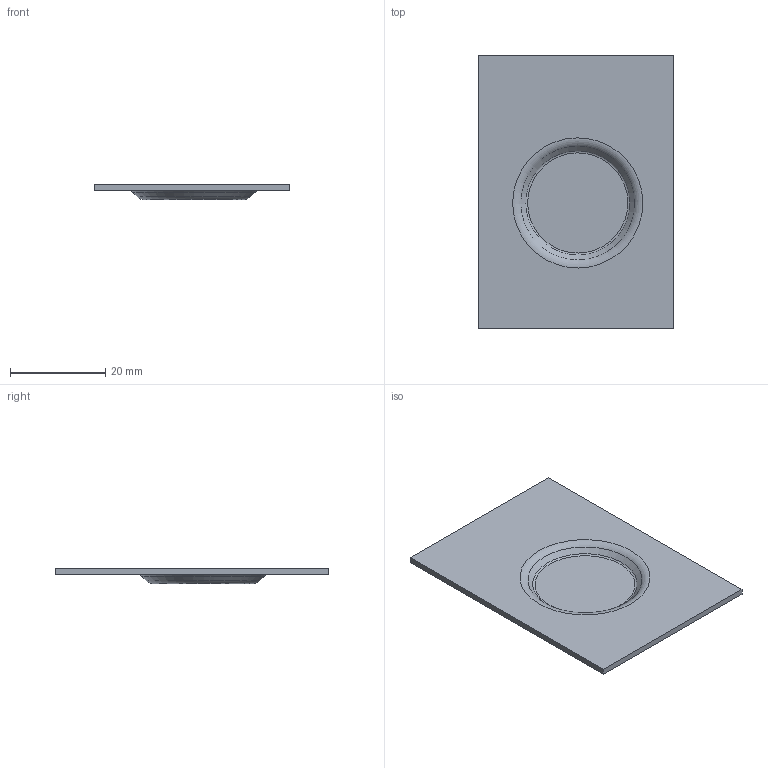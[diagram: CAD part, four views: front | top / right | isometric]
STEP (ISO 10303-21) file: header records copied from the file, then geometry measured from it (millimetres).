
FILE_DESCRIPTION((''),'1');
FILE_NAME('C:/Users/ericfrey/Desktop/200-5536-00 DIMPLE REV 01.stp', '2020-01-20T18:06:19',(''), (''), 'KCM Version 2.0.6439.6439', 'KeyCreator Pro', '');
FILE_SCHEMA(('AUTOMOTIVE_DESIGN'));
Length unit declared in the file: inch
Bounding box: 41.17 x 57.5 x 3.17 mm (x, y, z)
Volume: 3069.5 mm3; surface area: 5084.5 mm2
Topology: 1 solids, 1 shells, 14 faces, 30 edges, 22 vertices
Faces by surface type: plane 8, torus 4, cone 2
Entity records: 415 total; most frequent: DIRECTION 70, CARTESIAN_POINT 61, ORIENTED_EDGE 56, EDGE_CURVE 28, AXIS2_PLACEMENT_3D 27, VERTEX_POINT 18, VECTOR 16, LINE 16
